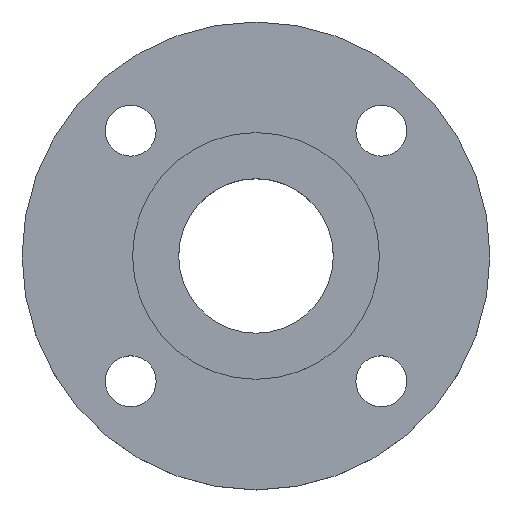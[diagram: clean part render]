
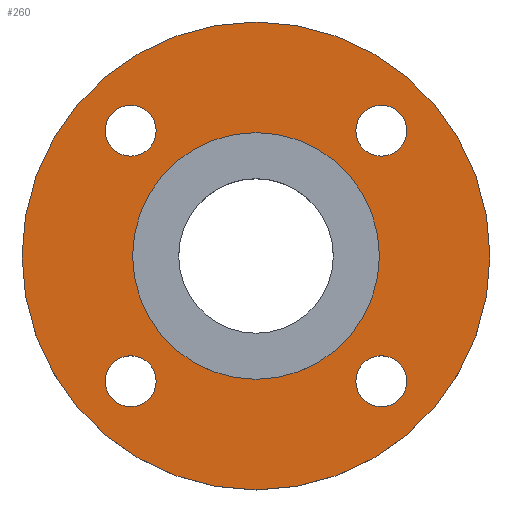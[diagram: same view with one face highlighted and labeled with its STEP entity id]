
A CAD part, top view. The second image highlights one B-rep face of the part: STEP entity #260.
In plain terms, the highlighted planar face has unit normal (0, 0, 1).
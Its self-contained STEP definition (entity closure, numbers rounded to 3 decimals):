
#4 = CARTESIAN_POINT ( 'NONE',  ( 35.194, 44.194, -4.5 ) ) ;
#10 = CARTESIAN_POINT ( 'NONE',  ( 82.5, 0., -4.5 ) ) ;
#16 = CARTESIAN_POINT ( 'NONE',  ( -35.194, -44.194, -4.5 ) ) ;
#19 = CARTESIAN_POINT ( 'NONE',  ( 43.5, 0., -4.5 ) ) ;
#34 = CIRCLE ( 'NONE', #38, 9. ) ;
#38 = AXIS2_PLACEMENT_3D ( 'NONE', #583, #582, #580 ) ;
#43 = CARTESIAN_POINT ( 'NONE',  ( 53.194, 44.194, -4.5 ) ) ;
#45 = CARTESIAN_POINT ( 'NONE',  ( -53.194, -44.194, -4.5 ) ) ;
#47 = EDGE_CURVE ( 'NONE', #686, #641, #478, .T. ) ;
#48 = CARTESIAN_POINT ( 'NONE',  ( -35.194, 44.194, -4.5 ) ) ;
#53 = CARTESIAN_POINT ( 'NONE',  ( 53.194, -44.194, -4.5 ) ) ;
#54 = CARTESIAN_POINT ( 'NONE',  ( -43.5, 0., -4.5 ) ) ;
#77 = CIRCLE ( 'NONE', #111, 43.5 ) ;
#111 = AXIS2_PLACEMENT_3D ( 'NONE', #558, #557, #556 ) ;
#131 = VERTEX_POINT ( 'NONE', #596 ) ;
#143 = CIRCLE ( 'NONE', #146, 9. ) ;
#146 = AXIS2_PLACEMENT_3D ( 'NONE', #436, #434, #433 ) ;
#148 = AXIS2_PLACEMENT_3D ( 'NONE', #432, #415, #412 ) ;
#155 = EDGE_CURVE ( 'NONE', #131, #629, #34, .T. ) ;
#156 = CIRCLE ( 'NONE', #148, 82.5 ) ;
#162 = CIRCLE ( 'NONE', #165, 9. ) ;
#165 = AXIS2_PLACEMENT_3D ( 'NONE', #366, #365, #363 ) ;
#166 = CIRCLE ( 'NONE', #167, 9. ) ;
#167 = AXIS2_PLACEMENT_3D ( 'NONE', #353, #351, #350 ) ;
#173 = DIRECTION ( 'NONE',  ( -1., 0., 0. ) ) ;
#174 = DIRECTION ( 'NONE',  ( 0., 0., -1. ) ) ;
#176 = CARTESIAN_POINT ( 'NONE',  ( 0., 0., -4.5 ) ) ;
#180 = AXIS2_PLACEMENT_3D ( 'NONE', #253, #251, #249 ) ;
#198 = EDGE_CURVE ( 'NONE', #673, #624, #77, .T. ) ;
#203 = CIRCLE ( 'NONE', #207, 82.5 ) ;
#207 = AXIS2_PLACEMENT_3D ( 'NONE', #176, #174, #173 ) ;
#209 = EDGE_CURVE ( 'NONE', #727, #635, #410, .T. ) ;
#242 = AXIS2_PLACEMENT_3D ( 'NONE', #525, #540, #519 ) ;
#249 = DIRECTION ( 'NONE',  ( 1., 0., 0. ) ) ;
#250 = AXIS2_PLACEMENT_3D ( 'NONE', #507, #504, #500 ) ;
#251 = DIRECTION ( 'NONE',  ( 0., 0., -1. ) ) ;
#253 = CARTESIAN_POINT ( 'NONE',  ( -44.194, -44.194, -4.5 ) ) ;
#260 = ADVANCED_FACE ( 'NONE', ( #520, #517, #516, #515, #512, #511 ), #510, .T. ) ;
#297 = CIRCLE ( 'NONE', #242, 9. ) ;
#299 = EDGE_CURVE ( 'NONE', #676, #636, #143, .T. ) ;
#302 = EDGE_CURVE ( 'NONE', #681, #752, #156, .T. ) ;
#305 = EDGE_CURVE ( 'NONE', #629, #131, #162, .T. ) ;
#311 = EDGE_CURVE ( 'NONE', #624, #673, #462, .T. ) ;
#312 = CIRCLE ( 'NONE', #180, 9. ) ;
#346 = EDGE_CURVE ( 'NONE', #641, #686, #166, .T. ) ;
#350 = DIRECTION ( 'NONE',  ( 1., 0., 0. ) ) ;
#351 = DIRECTION ( 'NONE',  ( 0., 0., -1. ) ) ;
#353 = CARTESIAN_POINT ( 'NONE',  ( 44.194, 44.194, -4.5 ) ) ;
#358 = DIRECTION ( 'NONE',  ( -1., 0., 0. ) ) ;
#359 = DIRECTION ( 'NONE',  ( 0., 0., -1. ) ) ;
#360 = CARTESIAN_POINT ( 'NONE',  ( 0., 0., -4.5 ) ) ;
#363 = DIRECTION ( 'NONE',  ( 1., 0., 0. ) ) ;
#365 = DIRECTION ( 'NONE',  ( 0., 0., -1. ) ) ;
#366 = CARTESIAN_POINT ( 'NONE',  ( 44.194, -44.194, -4.5 ) ) ;
#408 = AXIS2_PLACEMENT_3D ( 'NONE', #546, #545, #544 ) ;
#410 = CIRCLE ( 'NONE', #408, 9. ) ;
#412 = DIRECTION ( 'NONE',  ( -1., 0., 0. ) ) ;
#413 = EDGE_CURVE ( 'NONE', #636, #676, #312, .T. ) ;
#415 = DIRECTION ( 'NONE',  ( 0., 0., -1. ) ) ;
#432 = CARTESIAN_POINT ( 'NONE',  ( 0., 0., -4.5 ) ) ;
#433 = DIRECTION ( 'NONE',  ( 1., 0., 0. ) ) ;
#434 = DIRECTION ( 'NONE',  ( 0., 0., -1. ) ) ;
#436 = CARTESIAN_POINT ( 'NONE',  ( -44.194, -44.194, -4.5 ) ) ;
#459 = AXIS2_PLACEMENT_3D ( 'NONE', #360, #359, #358 ) ;
#462 = CIRCLE ( 'NONE', #459, 43.5 ) ;
#470 = EDGE_CURVE ( 'NONE', #752, #681, #203, .T. ) ;
#474 = AXIS2_PLACEMENT_3D ( 'NONE', #615, #614, #613 ) ;
#478 = CIRCLE ( 'NONE', #474, 9. ) ;
#494 = CARTESIAN_POINT ( 'NONE',  ( -53.194, 44.194, -4.5 ) ) ;
#497 = CARTESIAN_POINT ( 'NONE',  ( -82.5, 0., -4.5 ) ) ;
#500 = DIRECTION ( 'NONE',  ( 1., 0., 0. ) ) ;
#504 = DIRECTION ( 'NONE',  ( 0., 0., 1. ) ) ;
#507 = CARTESIAN_POINT ( 'NONE',  ( 43.5, 0., -4.5 ) ) ;
#510 = PLANE ( 'NONE',  #250 ) ;
#511 = FACE_OUTER_BOUND ( 'NONE', #664, .T. ) ;
#512 = FACE_BOUND ( 'NONE', #658, .T. ) ;
#515 = FACE_BOUND ( 'NONE', #657, .T. ) ;
#516 = FACE_BOUND ( 'NONE', #638, .T. ) ;
#517 = FACE_BOUND ( 'NONE', #655, .T. ) ;
#519 = DIRECTION ( 'NONE',  ( 1., 0., 0. ) ) ;
#520 = FACE_BOUND ( 'NONE', #656, .T. ) ;
#525 = CARTESIAN_POINT ( 'NONE',  ( -44.194, 44.194, -4.5 ) ) ;
#540 = DIRECTION ( 'NONE',  ( 0., 0., -1. ) ) ;
#544 = DIRECTION ( 'NONE',  ( 1., 0., 0. ) ) ;
#545 = DIRECTION ( 'NONE',  ( 0., 0., -1. ) ) ;
#546 = CARTESIAN_POINT ( 'NONE',  ( -44.194, 44.194, -4.5 ) ) ;
#556 = DIRECTION ( 'NONE',  ( -1., 0., 0. ) ) ;
#557 = DIRECTION ( 'NONE',  ( 0., 0., -1. ) ) ;
#558 = CARTESIAN_POINT ( 'NONE',  ( 0., 0., -4.5 ) ) ;
#580 = DIRECTION ( 'NONE',  ( 1., 0., 0. ) ) ;
#582 = DIRECTION ( 'NONE',  ( 0., 0., -1. ) ) ;
#583 = CARTESIAN_POINT ( 'NONE',  ( 44.194, -44.194, -4.5 ) ) ;
#596 = CARTESIAN_POINT ( 'NONE',  ( 35.194, -44.194, -4.5 ) ) ;
#613 = DIRECTION ( 'NONE',  ( 1., 0., 0. ) ) ;
#614 = DIRECTION ( 'NONE',  ( 0., 0., -1. ) ) ;
#615 = CARTESIAN_POINT ( 'NONE',  ( 44.194, 44.194, -4.5 ) ) ;
#624 = VERTEX_POINT ( 'NONE', #54 ) ;
#629 = VERTEX_POINT ( 'NONE', #53 ) ;
#635 = VERTEX_POINT ( 'NONE', #48 ) ;
#636 = VERTEX_POINT ( 'NONE', #45 ) ;
#638 = EDGE_LOOP ( 'NONE', ( #800, #801 ) ) ;
#641 = VERTEX_POINT ( 'NONE', #43 ) ;
#655 = EDGE_LOOP ( 'NONE', ( #796, #797 ) ) ;
#656 = EDGE_LOOP ( 'NONE', ( #794, #795 ) ) ;
#657 = EDGE_LOOP ( 'NONE', ( #802, #803 ) ) ;
#658 = EDGE_LOOP ( 'NONE', ( #804, #805 ) ) ;
#664 = EDGE_LOOP ( 'NONE', ( #807, #808 ) ) ;
#673 = VERTEX_POINT ( 'NONE', #19 ) ;
#676 = VERTEX_POINT ( 'NONE', #16 ) ;
#681 = VERTEX_POINT ( 'NONE', #10 ) ;
#686 = VERTEX_POINT ( 'NONE', #4 ) ;
#727 = VERTEX_POINT ( 'NONE', #494 ) ;
#734 = EDGE_CURVE ( 'NONE', #635, #727, #297, .T. ) ;
#752 = VERTEX_POINT ( 'NONE', #497 ) ;
#794 = ORIENTED_EDGE ( 'NONE', *, *, #305, .T. ) ;
#795 = ORIENTED_EDGE ( 'NONE', *, *, #155, .T. ) ;
#796 = ORIENTED_EDGE ( 'NONE', *, *, #299, .T. ) ;
#797 = ORIENTED_EDGE ( 'NONE', *, *, #413, .T. ) ;
#800 = ORIENTED_EDGE ( 'NONE', *, *, #734, .T. ) ;
#801 = ORIENTED_EDGE ( 'NONE', *, *, #209, .T. ) ;
#802 = ORIENTED_EDGE ( 'NONE', *, *, #346, .T. ) ;
#803 = ORIENTED_EDGE ( 'NONE', *, *, #47, .T. ) ;
#804 = ORIENTED_EDGE ( 'NONE', *, *, #311, .T. ) ;
#805 = ORIENTED_EDGE ( 'NONE', *, *, #198, .T. ) ;
#807 = ORIENTED_EDGE ( 'NONE', *, *, #302, .F. ) ;
#808 = ORIENTED_EDGE ( 'NONE', *, *, #470, .F. ) ;
